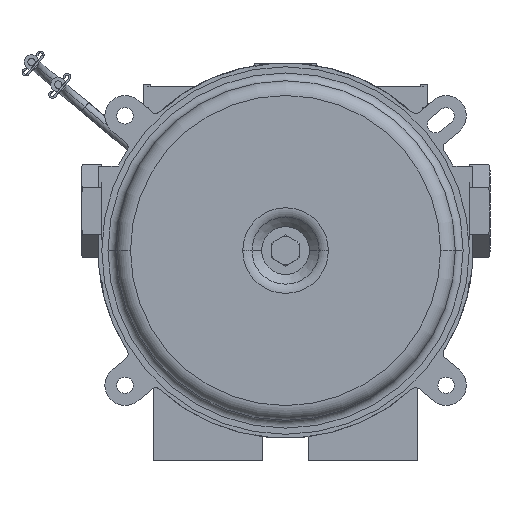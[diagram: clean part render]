
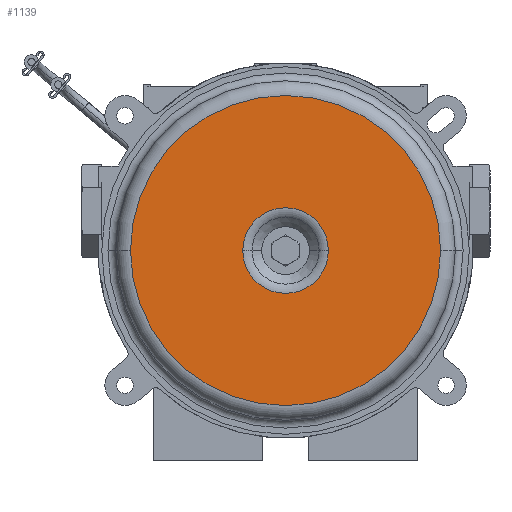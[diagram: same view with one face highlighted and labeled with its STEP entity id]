
A CAD part, front view. The second image highlights one B-rep face of the part: STEP entity #1139.
In plain terms, the highlighted planar face has unit normal (0, -1, 0).
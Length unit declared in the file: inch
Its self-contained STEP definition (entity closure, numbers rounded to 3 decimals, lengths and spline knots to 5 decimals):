
#269=CARTESIAN_POINT('',(0.,-3.772,0.27));
#270=DIRECTION('',(0.,-1.,0.));
#271=DIRECTION('',(-1.,0.,0.));
#272=AXIS2_PLACEMENT_3D('',#269,#270,#271);
#274=CARTESIAN_POINT('',(0.,-3.772,0.27));
#275=DIRECTION('',(0.,-1.,0.));
#276=DIRECTION('',(1.,0.,0.));
#277=AXIS2_PLACEMENT_3D('',#274,#275,#276);
#279=CARTESIAN_POINT('',(0.,-3.772,0.27));
#280=DIRECTION('',(0.,1.,0.));
#281=DIRECTION('',(-1.,0.,0.));
#282=AXIS2_PLACEMENT_3D('',#279,#280,#281);
#284=CARTESIAN_POINT('',(0.,-3.772,0.27));
#285=DIRECTION('',(0.,1.,0.));
#286=DIRECTION('',(1.,0.,0.));
#287=AXIS2_PLACEMENT_3D('',#284,#285,#286);
#675=CARTESIAN_POINT('',(0.46582,-3.772,0.27));
#677=VERTEX_POINT('',#675);
#678=CARTESIAN_POINT('',(-0.46582,-3.772,0.27));
#680=VERTEX_POINT('',#678);
#683=CARTESIAN_POINT('',(1.6875,-3.772,0.27));
#685=VERTEX_POINT('',#683);
#686=CARTESIAN_POINT('',(-1.6875,-3.772,0.27));
#688=VERTEX_POINT('',#686);
#1124=CARTESIAN_POINT('',(0.,-3.772,0.27));
#1125=DIRECTION('',(0.,1.,0.));
#1126=DIRECTION('',(-1.,0.,0.));
#1127=AXIS2_PLACEMENT_3D('',#1124,#1125,#1126);
#1128=PLANE('',#1127);
#1129=ORIENTED_EDGE('',*,*,#1119,.F.);
#1130=ORIENTED_EDGE('',*,*,#1103,.F.);
#1131=EDGE_LOOP('',(#1129,#1130));
#1132=FACE_OUTER_BOUND('',#1131,.F.);
#1134=ORIENTED_EDGE('',*,*,#1133,.F.);
#1136=ORIENTED_EDGE('',*,*,#1135,.F.);
#1137=EDGE_LOOP('',(#1134,#1136));
#1138=FACE_BOUND('',#1137,.F.);
#1139=ADVANCED_FACE('',(#1132,#1138),#1128,.F.);
#273=CIRCLE('',#272,1.6875);
#278=CIRCLE('',#277,1.6875);
#283=CIRCLE('',#282,0.46582);
#288=CIRCLE('',#287,0.46582);
#1103=EDGE_CURVE('',#685,#688,#278,.T.);
#1119=EDGE_CURVE('',#688,#685,#273,.T.);
#1133=EDGE_CURVE('',#680,#677,#283,.T.);
#1135=EDGE_CURVE('',#677,#680,#288,.T.);
